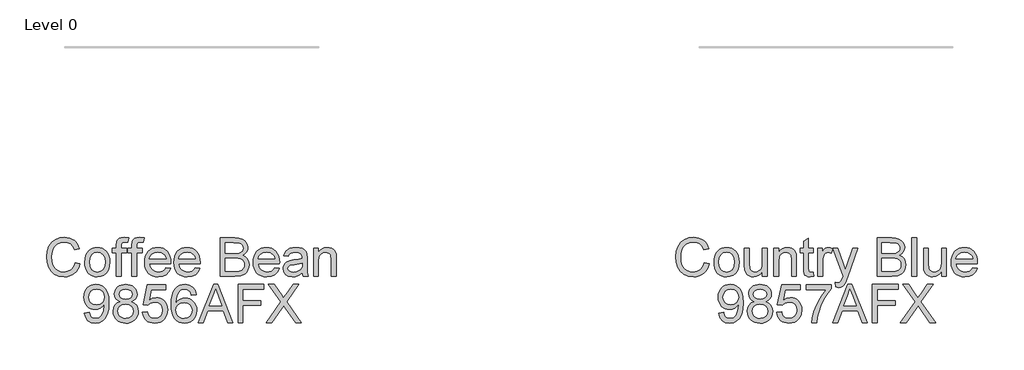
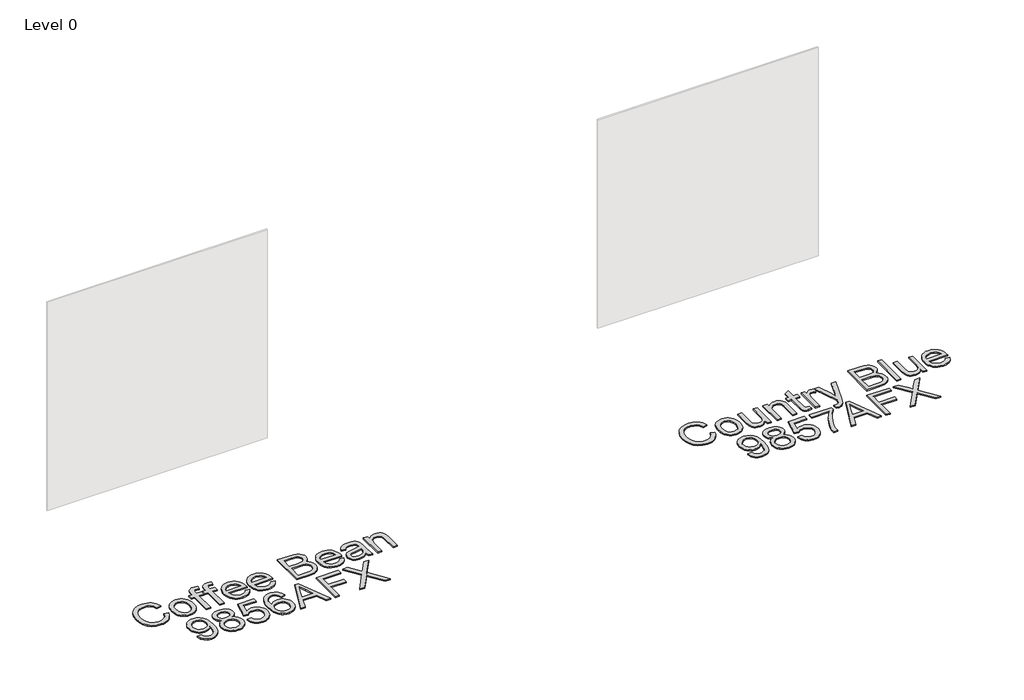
# One storey, part 2 of 10: 2 proxies.
"""IFC4 building model written with IfcOpenShell, lengths in millimetres."""

from ifc_helpers import new_model, si_unit, origin, origin_with_axes, place, context, project, spatial, polyline, outline, extrude, element, save

model = new_model("IFC4")

# Units and contexts
model_context = context("Model", 3, world=origin())
ifc_project = project(units=[si_unit("LENGTHUNIT", "METRE", prefix="MILLI")], contexts=[model_context])

# Site, building, storey
site = spatial("IfcSite", under=ifc_project)
building = spatial("IfcBuilding", under=site)
storey = spatial("IfcBuildingStorey", under=building, Name="Level 0", Elevation=0.0)

# Proxies
placement = place(None, origin())
element("IfcBuildingElementProxy", 1, Name="300mm Arial", ObjectType="300mm Arial", at=placement, inside=storey, context=model_context, shape_type="SweptSolid", body=[
    extrude(outline(polyline([(-10368.8915163, -11905.733257), (-10331.2204, -11915.4453417), (-10338.6746089, -11938.872527), (-10348.6028242, -11959.3428607), (-10361.005046, -11976.856343), (-10375.8812742, -11991.4129737), (-10392.8958165, -12002.856403), (-10411.7129805, -12011.0302811), (-10432.3327663, -12015.9346079), (-10454.7551739, -12017.5693835), (-10498.4503579, -12012.6213707), (-10533.1508271, -11997.7773322), (-10559.7486954, -11973.5523028), (-10579.1360765, -11940.4613173), (-10590.9726797, -11901.5577963), (-10594.9182141, -11859.8951604), (-10590.4576449, -11815.9516561), (-10577.0759373, -11778.0046283), (-10555.4720672, -11747.2588905), (-10526.3450102, -11724.9192564), (-10491.8008909, -11711.3168196), (-10453.9458336, -11706.782674), (-10412.6418825, -11712.6503918), (-10394.6731463, -11719.9850391), (-10378.4932363, -11730.2535453), (-10364.368867, -11743.1845974), (-10352.5667527, -11758.5068825), (-10335.9292895, -11796.3251516), (-10373.6004058, -11805.3014723), (-10386.6602166, -11777.8298843), (-10404.5024934, -11758.9851291), (-10427.3479653, -11748.086625), (-10455.4173615, -11744.4537903), (-10487.772583, -11748.4820981), (-10514.3520572, -11760.5670217), (-10534.5211875, -11779.439368), (-10547.6453777, -11803.8299443), (-10554.8466678, -11831.4026999), (-10557.2470978, -11859.821584), (-10554.4052094, -11894.6232207), (-10545.8795441, -11924.7159679), (-10531.3482053, -11948.9501944), (-10510.4892962, -11966.1762688), (-10485.4825176, -11976.4677676), (-10458.5075703, -11979.8982672), (-10427.0628568, -11975.2261659), (-10400.8604616, -11961.2098619), (-10381.0776074, -11937.996508), (-10368.8915163, -11905.733257)])), origin_with_axes(), (0.0, 0.0, 1.0), 10.0),
    extrude(outline(polyline([(-10293.5492837, -11902.2015898), (-10291.5121371, -11873.5389839), (-10285.4006975, -11848.8403064), (-10275.2149647, -11828.1055575), (-10260.9549389, -11811.334737), (-10246.598344, -11800.6155754), (-10230.7518271, -11792.9590314), (-10213.4153881, -11788.3651049), (-10194.589027, -11786.8337961), (-10173.8059935, -11788.698498), (-10155.0141213, -11794.2926036), (-10138.2134105, -11803.6161129), (-10123.4038609, -11816.669026), (-10111.3166381, -11833.0098843), (-10102.6829075, -11852.1972296), (-10097.5026692, -11874.2310619), (-10095.775923, -11899.1113811), (-10098.8293436, -11937.1687735), (-10107.9896053, -11966.1394806), (-10122.9899936, -11987.8353213), (-10143.5637942, -12004.0681143), (-10168.0003558, -12014.1940662), (-10194.589027, -12017.5693835), (-10215.6755631, -12015.7115794), (-10234.6421792, -12010.1381672), (-10251.4888753, -12000.8491468), (-10266.2156514, -11987.8445183), (-10278.1741155, -11971.3450108), (-10286.7158756, -11951.5713536), (-10291.8409316, -11928.5235466), (-10293.5492837, -11902.2015898)]), holes=[polyline([(-10255.8781674, -11902.1280134), (-10251.5187657, -11936.2214773), (-10238.4405608, -11960.5108861), (-10218.758874, -11975.0514219), (-10194.589027, -11979.8982672), (-10170.5295445, -11975.0238308), (-10150.8846459, -11960.4005215), (-10137.806441, -11935.789216), (-10133.4470394, -11900.950791), (-10137.8340321, -11867.8506085), (-10150.9950105, -11843.8922936), (-10170.6675002, -11829.3517577), (-10194.589027, -11824.5049125), (-10218.758874, -11829.3333636), (-10238.4405608, -11843.8187172), (-10251.5187657, -11868.0529436), (-10255.8781674, -11902.1280134)])]), origin_with_axes(), (0.0, 0.0, 1.0), 10.0),
    extrude(outline(polyline([(-9921.5470101, -12012.860494), (-9921.5470101, -11829.213802), (-9954.5092369, -11829.213802), (-9954.5092369, -11791.5426857), (-9921.5470101, -11791.5426857), (-9921.5470101, -11769.2490368), (-9917.5738846, -11737.8319144), (-9909.9955155, -11725.3055325), (-9898.296868, -11715.3911127), (-9881.9261193, -11708.9347837), (-9860.3314461, -11706.782674), (-9825.9712678, -11710.9029523), (-9831.4894977, -11746.2196239), (-9853.1945354, -11744.4537903), (-9867.5143421, -11746.0172888), (-9876.9229241, -11750.7077842), (-9882.1376514, -11759.6657108), (-9883.8758938, -11774.0315027), (-9883.8758938, -11791.5426857), (-9841.495888, -11791.5426857), (-9841.495888, -11829.213802), (-9883.8758938, -11829.213802), (-9883.8758938, -12012.860494), (-9921.5470101, -12012.860494)])), origin_with_axes(), (0.0, 0.0, 1.0), 10.0),
    extrude(outline(polyline([(-10043.9781381, -12012.860494), (-10043.9781381, -11829.213802), (-10076.9403649, -11829.213802), (-10076.9403649, -11791.5426857), (-10043.9781381, -11791.5426857), (-10043.9781381, -11769.2490368), (-10040.0050126, -11737.8319144), (-10032.4266435, -11725.3055325), (-10020.727996, -11715.3911127), (-10004.3572472, -11708.9347837), (-9982.7625741, -11706.782674), (-9948.4023958, -11710.9029523), (-9953.9206257, -11746.2196239), (-9975.6256634, -11744.4537903), (-9989.9454701, -11746.0172888), (-9999.3540521, -11750.7077842), (-10004.5687794, -11759.6657108), (-10006.3070218, -11774.0315027), (-10006.3070218, -11791.5426857), (-9963.927016, -11791.5426857), (-9963.927016, -11829.213802), (-10006.3070218, -11829.213802), (-10006.3070218, -12012.860494), (-10043.9781381, -12012.860494)])), origin_with_axes(), (0.0, 0.0, 1.0), 10.0),
    extrude(outline(polyline([(-9653.5817648, -11946.9360404), (-9616.6464125, -11951.64493), (-9629.9545437, -11979.4752029), (-9651.1905319, -12000.2789297), (-9679.8761305, -12013.2467701), (-9715.5330928, -12017.5693835), (-9738.9073951, -12015.7046817), (-9759.7341146, -12010.1105761), (-9778.0132512, -12000.7870668), (-9793.744805, -11987.7341537), (-9806.3953471, -11971.3151204), (-9815.4314486, -11951.8932503), (-9820.8531095, -11929.4685435), (-9822.6603298, -11904.0409998), (-9820.8347154, -11877.7512327), (-9815.3578722, -11854.5792656), (-9806.2298002, -11834.5250983), (-9793.4504994, -11817.5887309), (-9777.7603323, -11804.133447), (-9759.8996615, -11794.5225298), (-9739.8684868, -11788.7559796), (-9717.6668084, -11786.8337961), (-9696.1802006, -11788.751381), (-9676.7491335, -11794.5041357), (-9659.373607, -11804.0920602), (-9644.0536212, -11817.5151545), (-9631.5479326, -11834.4147337), (-9622.6152979, -11854.4321128), (-9617.2557171, -11877.5672917), (-9615.4691901, -11903.8202706), (-9615.6899193, -11913.9738137), (-9784.9892135, -11913.9738137), (-9778.4685052, -11942.1719686), (-9763.320964, -11962.902119), (-9741.4595764, -11975.6492302), (-9714.7973288, -11979.8982672), (-9694.7477601, -11977.9300985), (-9677.8619765, -11972.0255925), (-9664.1399781, -11961.8168672), (-9653.5817648, -11946.9360404)]), holes=[polyline([(-9784.9892135, -11876.3026974), (-9653.1403065, -11876.3026974), (-9658.2354721, -11856.4002814), (-9668.2234683, -11842.1632482), (-9690.1860234, -11828.9194964), (-9717.8139612, -11824.5049125), (-9743.2070159, -11828.0273826), (-9764.2038808, -11838.5947929), (-9778.799599, -11855.0667092), (-9784.9892135, -11876.3026974)])]), origin_with_axes(), (0.0, 0.0, 1.0), 10.0),
    extrude(outline(polyline([(-9422.8461775, -11946.9360404), (-9385.9108252, -11951.64493), (-9399.2189563, -11979.4752029), (-9420.4549445, -12000.2789297), (-9449.1405431, -12013.2467701), (-9484.7975055, -12017.5693835), (-9508.1718077, -12015.7046817), (-9528.9985272, -12010.1105761), (-9547.2776638, -12000.7870668), (-9563.0092176, -11987.7341537), (-9575.6597597, -11971.3151204), (-9584.6958613, -11951.8932503), (-9590.1175222, -11929.4685435), (-9591.9247425, -11904.0409998), (-9590.0991281, -11877.7512327), (-9584.6222849, -11854.5792656), (-9575.4942128, -11834.5250983), (-9562.714912, -11817.5887309), (-9547.0247449, -11804.133447), (-9529.1640741, -11794.5225298), (-9509.1328994, -11788.7559796), (-9486.931221, -11786.8337961), (-9465.4446133, -11788.751381), (-9446.0135461, -11794.5041357), (-9428.6380196, -11804.0920602), (-9413.3180338, -11817.5151545), (-9400.8123452, -11834.4147337), (-9391.8797105, -11854.4321128), (-9386.5201297, -11877.5672917), (-9384.7336028, -11903.8202706), (-9384.954332, -11913.9738137), (-9554.2536261, -11913.9738137), (-9547.7329178, -11942.1719686), (-9532.5853766, -11962.902119), (-9510.7239891, -11975.6492302), (-9484.0617415, -11979.8982672), (-9464.0121727, -11977.9300985), (-9447.1263892, -11972.0255925), (-9433.4043907, -11961.8168672), (-9422.8461775, -11946.9360404)]), holes=[polyline([(-9554.2536261, -11876.3026974), (-9422.4047191, -11876.3026974), (-9427.4998847, -11856.4002814), (-9437.4878809, -11842.1632482), (-9459.450436, -11828.9194964), (-9487.0783738, -11824.5049125), (-9512.4714285, -11828.0273826), (-9533.4682934, -11838.5947929), (-9548.0640116, -11855.0667092), (-9554.2536261, -11876.3026974)])]), origin_with_axes(), (0.0, 0.0, 1.0), 10.0),
    extrude(outline(polyline([(-9224.6313585, -12012.860494), (-9224.6313585, -11711.4915635), (-9109.6314468, -11711.4915635), (-9078.0027922, -11713.7080526), (-9053.3087133, -11720.3575196), (-9034.3811847, -11731.6055116), (-9020.052181, -11747.6175755), (-9011.029875, -11766.4531336), (-9008.0224397, -11786.1716086), (-9010.5516284, -11804.317388), (-9018.1391946, -11821.3779155), (-9030.8403205, -11836.3047274), (-9048.7101884, -11848.0493601), (-9027.3638356, -11859.1961846), (-9011.5908951, -11876.1555446), (-9001.8512192, -11897.8054), (-8998.6046606, -11923.0237108), (-9000.8211497, -11944.0389697), (-9007.4706167, -11963.5275184), (-9017.3942335, -11980.1006023), (-9029.4331718, -11992.3694669), (-9044.1760428, -12001.253817), (-9062.2114576, -12007.6733578), (-9110.5143636, -12012.860494), (-9224.6313585, -12012.860494)]), holes=[polyline([(-9186.9602422, -11833.9226915), (-9118.1663091, -11833.9226915), (-9077.9935952, -11830.68533), (-9063.9313059, -11825.1027207), (-9053.8237481, -11816.7426024), (-9047.726104, -11805.7337336), (-9045.693556, -11792.2048733), (-9047.5881483, -11779.071486), (-9053.2719251, -11767.630356), (-9062.4873691, -11758.7000206), (-9074.9769628, -11753.0990172), (-9123.3902334, -11749.1626798), (-9186.9602422, -11749.1626798), (-9186.9602422, -11833.9226915)]), polyline([(-9186.9602422, -11975.1893777), (-9109.7050232, -11975.1893777), (-9081.7459915, -11973.7178497), (-9058.0911793, -11965.5140812), (-9042.4194063, -11948.7754504), (-9037.8116843, -11936.9480443), (-9036.2757769, -11923.3915928), (-9038.0783987, -11907.6462434), (-9043.486264, -11894.1081859), (-9052.9316343, -11883.5223815), (-9066.8467707, -11876.6337912), (-9086.5560486, -11872.8538037), (-9113.3838431, -11871.5938078), (-9186.9602422, -11871.5938078), (-9186.9602422, -11975.1893777)])]), origin_with_axes(), (0.0, 0.0, 1.0), 10.0),
    extrude(outline(polyline([(-8796.5638689, -11946.9360404), (-8759.6285166, -11951.64493), (-8772.9366477, -11979.4752029), (-8794.1726359, -12000.2789297), (-8822.8582345, -12013.2467701), (-8858.5151969, -12017.5693835), (-8881.8894991, -12015.7046817), (-8902.7162186, -12010.1105761), (-8920.9953552, -12000.7870668), (-8936.726909, -11987.7341537), (-8949.3774512, -11971.3151204), (-8958.4135527, -11951.8932503), (-8963.8352136, -11929.4685435), (-8965.6424339, -11904.0409998), (-8963.8168195, -11877.7512327), (-8958.3399763, -11854.5792656), (-8949.2119043, -11834.5250983), (-8936.4326034, -11817.5887309), (-8920.7424364, -11804.133447), (-8902.8817655, -11794.5225298), (-8882.8505909, -11788.7559796), (-8860.6489124, -11786.8337961), (-8839.1623047, -11788.751381), (-8819.7312375, -11794.5041357), (-8802.355711, -11804.0920602), (-8787.0357252, -11817.5151545), (-8774.5300366, -11834.4147337), (-8765.5974019, -11854.4321128), (-8760.2378211, -11877.5672917), (-8758.4512942, -11903.8202706), (-8758.6720234, -11913.9738137), (-8927.9713176, -11913.9738137), (-8921.4506092, -11942.1719686), (-8906.303068, -11962.902119), (-8884.4416805, -11975.6492302), (-8857.7794329, -11979.8982672), (-8837.7298641, -11977.9300985), (-8820.8440806, -11972.0255925), (-8807.1220821, -11961.8168672), (-8796.5638689, -11946.9360404)]), holes=[polyline([(-8927.9713176, -11876.3026974), (-8796.1224105, -11876.3026974), (-8801.2175761, -11856.4002814), (-8811.2055723, -11842.1632482), (-8833.1681274, -11828.9194964), (-8860.7960652, -11824.5049125), (-8886.18912, -11828.0273826), (-8907.1859848, -11838.5947929), (-8921.781703, -11855.0667092), (-8927.9713176, -11876.3026974)])]), origin_with_axes(), (0.0, 0.0, 1.0), 10.0),
    extrude(outline(polyline([(-8579.5134917, -11984.6071568), (-8597.5121183, -12000.0398064), (-8616.0441738, -12010.1381672), (-8635.5327225, -12015.7115794), (-8656.4008287, -12017.5693835), (-8687.8823305, -12013.0996173), (-8711.1048814, -11999.6903186), (-8725.4246881, -11979.3280501), (-8730.197957, -11953.9993748), (-8728.3953352, -11938.3827841), (-8722.9874698, -11924.2009331), (-8714.6457456, -11912.0608273), (-8704.0415471, -11902.5694718), (-8677.664408, -11890.2086368), (-8645.0700633, -11884.5432541), (-8606.5528184, -11878.5835657), (-8579.7342209, -11871.5938078), (-8579.5134917, -11863.2060983), (-8582.1070598, -11846.3938912), (-8589.887764, -11835.3942195), (-8607.2885824, -11827.2272392), (-8631.5320058, -11824.5049125), (-8653.9728076, -11826.3167313), (-8669.6445805, -11831.7521878), (-8680.3315525, -11841.8045633), (-8687.8179511, -11857.4671392), (-8725.4890674, -11852.7582497), (-8718.949965, -11832.156858), (-8709.191895, -11815.9700502), (-8695.3043497, -11803.590821), (-8676.3768211, -11794.4121652), (-8653.2278465, -11788.7283884), (-8626.6759635, -11786.8337961), (-8601.2093324, -11788.5076592), (-8581.0218079, -11793.5292485), (-8565.8006904, -11801.0800264), (-8555.23328, -11810.3414556), (-8548.225128, -11821.7917827), (-8543.6817854, -11835.9092543), (-8541.8423754, -11868.8714811), (-8541.8423754, -11915.7396473), (-8539.929389, -11981.1858542), (-8532.4245963, -12012.860494), (-8570.0957127, -12012.860494), (-8579.5134917, -11984.6071568)]), holes=[polyline([(-8579.5134917, -11909.2649241), (-8640.2875973, -11920.8164188), (-8672.6980011, -11926.9232599), (-8687.3764927, -11936.8560738), (-8692.5268406, -11951.3506244), (-8689.7217404, -11962.5526311), (-8681.3064398, -11971.7312869), (-8667.4648797, -11977.8565221), (-8648.3810012, -11979.8982672), (-8628.1474915, -11977.64499), (-8610.2684265, -11970.8851583), (-8595.7738759, -11960.9247533), (-8585.6939092, -11949.069756), (-8581.224143, -11936.8560738), (-8579.7342209, -11919.933502), (-8579.5134917, -11909.2649241)])]), origin_with_axes(), (0.0, 0.0, 1.0), 10.0),
    extrude(outline(polyline([(-8490.0445905, -12012.860494), (-8490.0445905, -11791.5426857), (-8452.3734742, -11791.5426857), (-8452.3734742, -11822.4447733), (-8439.2860722, -11806.8649708), (-8423.568314, -11795.7365404), (-8405.2201995, -11789.0594822), (-8384.2417287, -11786.8337961), (-8365.672885, -11788.6272209), (-8348.6675398, -11794.0074951), (-8334.4856888, -11802.303234), (-8324.3873281, -11812.8430532), (-8313.0933508, -11840.5445674), (-8311.106788, -11876.964885), (-8311.106788, -12012.860494), (-8348.7779044, -12012.860494), (-8348.7779044, -11882.0416565), (-8353.1189119, -11848.7115477), (-8359.1245855, -11838.7879309), (-8368.4595911, -11831.0900002), (-8380.424953, -11826.1511844), (-8394.3216954, -11824.5049125), (-8416.385418, -11828.2021265), (-8435.193385, -11839.2937687), (-8442.709674, -11848.3482643), (-8448.0784519, -11860.7228949), (-8452.3734742, -11895.4325611), (-8452.3734742, -12012.860494), (-8490.0445905, -12012.860494)])), origin_with_axes(), (0.0, 0.0, 1.0), 10.0),
    extrude(outline(polyline([(-10295.9037284, -12303.4427149), (-10258.2326121, -12298.7338254), (-10251.7946772, -12320.1169663), (-10241.3100403, -12334.6758963), (-10227.0362189, -12343.0360146), (-10209.2307304, -12345.8227207), (-10193.2554547, -12344.029296), (-10178.733313, -12338.6490218), (-10166.6667835, -12330.2705094), (-10158.0583448, -12319.4823699), (-10145.734298, -12286.7408723), (-10140.2896445, -12243.0364913), (-10140.5103737, -12235.6788514), (-10153.5609874, -12251.6081418), (-10170.6399091, -12264.2264942), (-10190.5147339, -12272.4486568), (-10211.9530571, -12275.1893777), (-10229.8482169, -12273.5155146), (-10246.3040384, -12268.4939254), (-10261.3205216, -12260.12461), (-10274.8976665, -12248.4075684), (-10286.1479578, -12233.9544045), (-10294.1838801, -12217.3767221), (-10299.0054335, -12198.6745212), (-10300.612618, -12177.8478018), (-10298.9272586, -12156.326705), (-10293.8711804, -12137.0129003), (-10285.4443835, -12119.9063875), (-10273.6468677, -12105.0071667), (-10259.3109662, -12092.9360387), (-10243.269012, -12084.3138045), (-10225.521005, -12079.1404639), (-10206.0669452, -12077.4160171), (-10177.9699578, -12081.3523544), (-10152.3929621, -12093.1613665), (-10131.0006241, -12112.254442), (-10115.4576098, -12138.0429699), (-10105.9938455, -12173.6907352), (-10102.8392574, -12222.3615232), (-10105.9846484, -12273.96617), (-10115.4208216, -12313.8537754), (-10131.0650034, -12343.8269609), (-10152.8344205, -12365.6883485), (-10179.7909737, -12379.0424649), (-10210.9965639, -12383.4938371), (-10243.2046326, -12378.2423216), (-10268.90119, -12362.4877751), (-10286.8722254, -12337.2234791), (-10295.9037284, -12303.4427149)]), holes=[polyline([(-10140.5103737, -12176.964885), (-10144.5754697, -12151.4338745), (-10156.7707578, -12131.788976), (-10175.6982865, -12119.262594), (-10199.9601041, -12115.0871334), (-10225.1232326, -12119.5844908), (-10245.2831659, -12133.0765629), (-10258.5269177, -12153.7239399), (-10262.9415017, -12179.6872117), (-10258.766041, -12202.964945), (-10246.2396591, -12221.4418182), (-10226.5763664, -12233.4991506), (-10200.9901737, -12237.5182614), (-10176.9214941, -12233.4991506), (-10157.54331, -12221.4418182), (-10144.7686078, -12202.2843633), (-10140.5103737, -12176.964885)])]), origin_with_axes(), (0.0, 0.0, 1.0), 10.0),
    extrude(outline(polyline([(-10014.9890369, -12212.7965913), (-10035.1581673, -12202.8637774), (-10049.3124271, -12189.3992964), (-10057.6725454, -12172.6790597), (-10060.4592515, -12152.9789789), (-10058.9417383, -12137.6153071), (-10054.3891986, -12123.5300252), (-10046.8016324, -12110.7231332), (-10036.1790398, -12099.1946312), (-10023.031857, -12089.6664875), (-10007.8705203, -12082.8606706), (-9971.5053851, -12077.4160171), (-9934.9195207, -12082.9894293), (-9919.592637, -12089.9561946), (-9906.2431191, -12099.709666), (-9895.4273885, -12111.4634957), (-9887.7018666, -12124.4313361), (-9883.0665534, -12138.613187), (-9881.5214491, -12154.0090485), (-9884.271367, -12173.0745329), (-9892.5211207, -12189.509661), (-9906.3626808, -12202.8913686), (-9925.8880177, -12212.7965913), (-9902.7022549, -12224.7435591), (-9885.8256684, -12242.3375155), (-9875.5341696, -12264.732332), (-9872.10367, -12291.0818799), (-9873.8051242, -12309.8714528), (-9878.9094869, -12327.0975272), (-9887.416758, -12342.7601031), (-9899.3269376, -12356.8591806), (-9914.0146263, -12368.5118428), (-9930.8544246, -12376.8351729), (-9949.8463326, -12381.829171), (-9970.9903503, -12383.4938371), (-9992.134368, -12381.8222732), (-10011.126276, -12376.8075818), (-10027.9660743, -12368.4497627), (-10042.6537629, -12356.748816), (-10054.5639425, -12342.5508703), (-10063.0712137, -12326.702054), (-10068.1755764, -12309.2023674), (-10069.8770306, -12290.0518103), (-10066.3085752, -12262.6813898), (-10055.6032092, -12240.1670117), (-10038.3127554, -12223.2812282), (-10014.9890369, -12212.7965913)]), holes=[polyline([(-10022.7881352, -12154.0826249), (-10019.4496061, -12170.52695), (-10009.4340188, -12183.6603373), (-9993.0356788, -12192.268776), (-9970.5488919, -12195.1382555), (-9948.5863368, -12192.2871701), (-9932.4363172, -12183.7339137), (-9922.5035033, -12171.0419848), (-9919.1925654, -12155.774882), (-9922.6138679, -12139.9283651), (-9932.8777756, -12126.822569), (-9949.2485244, -12118.0209923), (-9970.9903503, -12115.0871334), (-9992.8701319, -12117.9566129), (-10009.2132896, -12126.5650516), (-10019.3944238, -12139.1834041), (-10022.7881352, -12154.0826249)]), polyline([(-10032.2059143, -12288.7274351), (-10025.9151322, -12317.0911369), (-10017.2055259, -12329.2588339), (-10003.6582715, -12338.317928), (-9987.4346755, -12343.9465226), (-9970.6960447, -12345.8227207), (-9945.0546696, -12341.8771864), (-9925.8144413, -12330.0405832), (-9913.7847, -12312.1155329), (-9909.7747863, -12289.9046575), (-9913.9134587, -12267.316703), (-9926.3294761, -12248.9961796), (-9946.0111628, -12236.8560738), (-9971.9468435, -12232.8093718), (-9997.2295336, -12236.8008915), (-10016.2766239, -12248.7754504), (-10028.2235917, -12266.7464859), (-10032.2059143, -12288.7274351)])]), origin_with_axes(), (0.0, 0.0, 1.0), 10.0),
    extrude(outline(polyline([(-9839.1414432, -12298.7338254), (-9801.4703269, -12294.0249358), (-9794.5541454, -12316.6404815), (-9782.487616, -12332.8364863), (-9765.3259209, -12342.5761621), (-9743.1242425, -12345.8227207), (-9716.121704, -12341.3069693), (-9695.8881943, -12327.7597148), (-9683.2514478, -12306.7444558), (-9679.0391989, -12279.8246908), (-9682.9847333, -12254.4776213), (-9694.8213365, -12235.0902402), (-9714.640979, -12222.7845875), (-9742.5356313, -12218.6827032), (-9760.8101694, -12220.3197781), (-9775.6082226, -12225.2310027), (-9796.7614374, -12242.2271509), (-9834.4325537, -12237.5182614), (-9801.4703269, -12082.1249066), (-9655.4947512, -12082.1249066), (-9655.4947512, -12119.7960229), (-9771.0096977, -12119.7960229), (-9787.1229291, -12202.790201), (-9760.2123611, -12186.4562404), (-9732.0142062, -12181.0115869), (-9713.668391, -12182.6992456), (-9696.8170963, -12187.7622215), (-9681.4603223, -12196.2005148), (-9667.5980689, -12208.0141254), (-9656.1224499, -12222.4810848), (-9647.9255792, -12238.8794248), (-9643.0074567, -12257.2091452), (-9641.3680826, -12277.470246), (-9647.2725886, -12315.1413624), (-9654.6532212, -12331.9351754), (-9664.9861067, -12347.3678251), (-9680.6394856, -12363.1729553), (-9698.9048267, -12374.4623341), (-9719.7821299, -12381.2359613), (-9743.2713953, -12383.4938371), (-9780.2711269, -12377.6904986), (-9795.9497977, -12370.4363255), (-9809.7476718, -12360.2804832), (-9821.2278893, -12347.7288093), (-9829.9535904, -12333.2871418), (-9839.1414432, -12298.7338254)])), origin_with_axes(), (0.0, 0.0, 1.0), 10.0),
    extrude(outline(polyline([(-9415.3413848, -12157.4671392), (-9453.0125011, -12162.1760288), (-9459.082554, -12143.5060175), (-9467.2863225, -12130.7589064), (-9484.3744412, -12119.0050766), (-9505.0310152, -12115.0871334), (-9522.5421982, -12117.3680017), (-9539.0233115, -12124.2106069), (-9553.1775713, -12138.622384), (-9564.738263, -12158.4604206), (-9572.5465584, -12186.5206198), (-9575.4436291, -12225.5988847), (-9560.3328761, -12207.9681401), (-9542.2238849, -12195.5429257), (-9522.1283309, -12188.1760888), (-9501.0578896, -12185.7204764), (-9482.9580955, -12187.3989381), (-9466.2562529, -12192.4343229), (-9450.9523619, -12200.8266309), (-9437.0464225, -12212.5758621), (-9425.4903293, -12226.9830407), (-9417.235977, -12243.349191), (-9412.2833657, -12261.6743129), (-9410.6324952, -12281.9584064), (-9413.7410981, -12308.9333537), (-9423.0669067, -12333.9401323), (-9437.8373688, -12355.1485293), (-9457.2799322, -12370.7283318), (-9480.5116802, -12380.3024607), (-9506.649696, -12383.4938371), (-9529.1065925, -12381.3785156), (-9549.3883868, -12375.0325512), (-9567.4950787, -12364.4559438), (-9583.4266684, -12349.6486935), (-9596.4152021, -12329.9854009), (-9605.6927261, -12304.8406665), (-9611.2592406, -12274.2144904), (-9613.1147454, -12238.1068726), (-9611.0546062, -12197.6260575), (-9604.8741887, -12163.0773396), (-9594.5734928, -12134.4607189), (-9580.1525186, -12111.7761954), (-9564.5221323, -12096.7436174), (-9546.3993456, -12086.0060617), (-9525.7841582, -12079.5635282), (-9502.6765704, -12077.4160171), (-9469.6223732, -12082.7319119), (-9443.1532636, -12098.6795964), (-9424.612011, -12124.0082718), (-9415.3413848, -12157.4671392)]), holes=[polyline([(-9575.4436291, -12281.3697952), (-9573.2639283, -12298.0624407), (-9566.7248258, -12314.0009282), (-9556.5712827, -12327.7045325), (-9543.5482601, -12337.6925287), (-9527.8305018, -12343.7901727), (-9509.5927519, -12345.8227207), (-9484.7331261, -12341.6104719), (-9465.1893951, -12328.9737254), (-9452.5250574, -12309.1080976), (-9448.3036115, -12283.2092052), (-9452.4698751, -12258.3495793), (-9464.9686659, -12239.3944595), (-9484.8434907, -12227.3923095), (-9511.1378563, -12223.3915928), (-9535.9606939, -12227.3923095), (-9556.7184355, -12239.3944595), (-9570.7623307, -12257.8897269), (-9575.4436291, -12281.3697952)])]), origin_with_axes(), (0.0, 0.0, 1.0), 10.0),
    extrude(outline(polyline([(-9398.6395422, -12378.7849475), (-9278.3421298, -12077.4160171), (-9246.2628198, -12077.4160171), (-9125.9654074, -12378.7849475), (-9165.7702392, -12378.7849475), (-9200.2775704, -12284.6071568), (-9324.4009556, -12284.6071568), (-9358.8347103, -12378.7849475), (-9398.6395422, -12378.7849475)]), holes=[polyline([(-9310.5685925, -12246.9360404), (-9214.036357, -12246.9360404), (-9241.1860483, -12172.8446066), (-9262.3024748, -12115.0871334), (-9281.0644565, -12166.3698835), (-9310.5685925, -12246.9360404)])]), origin_with_axes(), (0.0, 0.0, 1.0), 10.0),
    extrude(outline(polyline([(-9085.7191171, -12378.7849475), (-9085.7191171, -12077.4160171), (-8883.2368669, -12077.4160171), (-8883.2368669, -12115.0871334), (-9048.0480008, -12115.0871334), (-9048.0480008, -12204.5560346), (-8906.7813146, -12204.5560346), (-8906.7813146, -12242.2271509), (-9048.0480008, -12242.2271509), (-9048.0480008, -12378.7849475), (-9085.7191171, -12378.7849475)])), origin_with_axes(), (0.0, 0.0, 1.0), 10.0),
    extrude(outline(polyline([(-8864.4013088, -12378.7849475), (-8748.2241747, -12214.5624249), (-8845.5657506, -12077.4160171), (-8800.3898416, -12077.4160171), (-8745.5754244, -12154.5976597), (-8727.1077482, -12184.6904069), (-8705.4762869, -12154.0826249), (-8651.2504808, -12077.4160171), (-8605.4123842, -12077.4160171), (-8702.7539601, -12215.0038833), (-8586.576826, -12378.7849475), (-8631.752735, -12378.7849475), (-8709.1551068, -12269.5975713), (-8725.2683382, -12246.9360404), (-8743.0002504, -12271.8048633), (-8818.5632122, -12378.7849475), (-8864.4013088, -12378.7849475)])), origin_with_axes(), (0.0, 0.0, 1.0), 10.0),
])
element("IfcBuildingElementProxy", 2, Name="300mm Arial", ObjectType="300mm Arial", at=placement, inside=storey, context=model_context, shape_type="SweptSolid", body=[
    extrude(outline(polyline([(-5408.9170773, -11905.733257), (-5371.245961, -11915.4453417), (-5378.70017, -11938.872527), (-5388.6283853, -11959.3428607), (-5401.0306071, -11976.856343), (-5415.9068353, -11991.4129737), (-5432.9213775, -12002.856403), (-5451.7385416, -12011.0302811), (-5472.3583274, -12015.9346079), (-5494.780735, -12017.5693835), (-5538.475919, -12012.6213707), (-5573.1763882, -11997.7773322), (-5599.7742564, -11973.5523028), (-5619.1616376, -11940.4613173), (-5630.9982408, -11901.5577963), (-5634.9437752, -11859.8951604), (-5630.483206, -11815.9516561), (-5617.1014984, -11778.0046283), (-5595.4976282, -11747.2588905), (-5566.3705713, -11724.9192564), (-5531.8264519, -11711.3168196), (-5493.9713946, -11706.782674), (-5452.6674436, -11712.6503918), (-5434.6987074, -11719.9850391), (-5418.5187974, -11730.2535453), (-5404.3944281, -11743.1845974), (-5392.5923138, -11758.5068825), (-5375.9548506, -11796.3251516), (-5413.6259669, -11805.3014723), (-5426.6857777, -11777.8298843), (-5444.5280545, -11758.9851291), (-5467.3735264, -11748.086625), (-5495.4429226, -11744.4537903), (-5527.7981441, -11748.4820981), (-5554.3776182, -11760.5670217), (-5574.5467486, -11779.439368), (-5587.6709388, -11803.8299443), (-5594.8722289, -11831.4026999), (-5597.2726589, -11859.821584), (-5594.4307705, -11894.6232207), (-5585.9051052, -11924.7159679), (-5571.3737664, -11948.9501944), (-5550.5148573, -11966.1762688), (-5525.5080787, -11976.4677676), (-5498.5331314, -11979.8982672), (-5467.0884178, -11975.2261659), (-5440.8860227, -11961.2098619), (-5421.1031684, -11937.996508), (-5408.9170773, -11905.733257)])), origin_with_axes(), (0.0, 0.0, 1.0), 10.0),
    extrude(outline(polyline([(-5333.5748447, -11902.2015898), (-5331.5376982, -11873.5389839), (-5325.4262585, -11848.8403064), (-5315.2405258, -11828.1055575), (-5300.9805, -11811.334737), (-5286.6239051, -11800.6155754), (-5270.7773882, -11792.9590314), (-5253.4409491, -11788.3651049), (-5234.614588, -11786.8337961), (-5213.8315546, -11788.698498), (-5195.0396824, -11794.2926036), (-5178.2389715, -11803.6161129), (-5163.429422, -11816.669026), (-5151.3421992, -11833.0098843), (-5142.7084686, -11852.1972296), (-5137.5282302, -11874.2310619), (-5135.8014841, -11899.1113811), (-5138.8549047, -11937.1687735), (-5148.0151664, -11966.1394806), (-5163.0155547, -11987.8353213), (-5183.5893553, -12004.0681143), (-5208.0259168, -12014.1940662), (-5234.614588, -12017.5693835), (-5255.7011241, -12015.7115794), (-5274.6677403, -12010.1381672), (-5291.5144364, -12000.8491468), (-5306.2412125, -11987.8445183), (-5318.1996766, -11971.3450108), (-5326.7414367, -11951.5713536), (-5331.8664927, -11928.5235466), (-5333.5748447, -11902.2015898)]), holes=[polyline([(-5295.9037284, -11902.1280134), (-5291.5443268, -11936.2214773), (-5278.4661219, -11960.5108861), (-5258.7844351, -11975.0514219), (-5234.614588, -11979.8982672), (-5210.5551055, -11975.0238308), (-5190.910207, -11960.4005215), (-5177.8320021, -11935.789216), (-5173.4726004, -11900.950791), (-5177.8595932, -11867.8506085), (-5191.0205716, -11843.8922936), (-5210.6930613, -11829.3517577), (-5234.614588, -11824.5049125), (-5258.7844351, -11829.3333636), (-5278.4661219, -11843.8187172), (-5291.5443268, -11868.0529436), (-5295.9037284, -11902.1280134)])]), origin_with_axes(), (0.0, 0.0, 1.0), 10.0),
    extrude(outline(polyline([(-4952.1547921, -12012.860494), (-4952.1547921, -11974.8214957), (-4965.7848201, -11993.5236966), (-4981.6589281, -12006.8824116), (-4999.7771164, -12014.8976405), (-5020.1393848, -12017.5693835), (-5038.4874994, -12015.6931853), (-5055.566421, -12010.0645908), (-5069.8954247, -12001.6033049), (-5079.9937855, -11991.2290327), (-5091.2141863, -11963.4907302), (-5093.4214783, -11928.4683643), (-5093.4214783, -11791.5426857), (-5055.750362, -11791.5426857), (-5055.750362, -11910.7364521), (-5053.4694936, -11949.1433324), (-5047.9788548, -11961.9548229), (-5038.5702728, -11971.6944987), (-5025.8691469, -11977.8473251), (-5010.5008766, -11979.8982672), (-4994.2496894, -11977.8013398), (-4979.046966, -11971.5105577), (-4966.511387, -11961.605335), (-4958.2616333, -11948.6650858), (-4953.6815024, -11930.9423707), (-4952.1547921, -11906.6897502), (-4952.1547921, -11791.5426857), (-4914.4836758, -11791.5426857), (-4914.4836758, -12012.860494), (-4952.1547921, -12012.860494)])), origin_with_axes(), (0.0, 0.0, 1.0), 10.0),
    extrude(outline(polyline([(-4862.6858909, -12012.860494), (-4862.6858909, -11791.5426857), (-4825.0147746, -11791.5426857), (-4825.0147746, -11822.4447733), (-4811.9273726, -11806.8649708), (-4796.2096144, -11795.7365404), (-4777.8614999, -11789.0594822), (-4756.8830291, -11786.8337961), (-4738.3141854, -11788.6272209), (-4721.3088402, -11794.0074951), (-4707.1269892, -11802.303234), (-4697.0286285, -11812.8430532), (-4685.7346512, -11840.5445674), (-4683.7480885, -11876.964885), (-4683.7480885, -12012.860494), (-4721.4192048, -12012.860494), (-4721.4192048, -11882.0416565), (-4725.7602123, -11848.7115477), (-4731.7658859, -11838.7879309), (-4741.1008915, -11831.0900002), (-4753.0662534, -11826.1511844), (-4766.9629958, -11824.5049125), (-4789.0267184, -11828.2021265), (-4807.8346854, -11839.2937687), (-4815.3509744, -11848.3482643), (-4820.7197523, -11860.7228949), (-4825.0147746, -11895.4325611), (-4825.0147746, -12012.860494), (-4862.6858909, -12012.860494)])), origin_with_axes(), (0.0, 0.0, 1.0), 10.0),
    extrude(outline(polyline([(-4551.8991814, -11981.4433716), (-4547.1902918, -12013.96414), (-4575.3700527, -12017.5693835), (-4593.4514527, -12016.005885), (-4606.9343279, -12011.3153896), (-4616.4624715, -12004.0865084), (-4622.6796773, -11994.9078526), (-4626.1009798, -11979.1441091), (-4627.241414, -11952.1599648), (-4627.241414, -11829.213802), (-4655.4947512, -11829.213802), (-4655.4947512, -11791.5426857), (-4627.241414, -11791.5426857), (-4627.241414, -11737.758338), (-4589.5702977, -11715.6118419), (-4589.5702977, -11791.5426857), (-4551.8991814, -11791.5426857), (-4551.8991814, -11829.213802), (-4589.5702977, -11829.213802), (-4589.5702977, -11951.0563188), (-4587.5837349, -11970.4804881), (-4581.1458, -11977.3598814), (-4568.3067184, -11979.8982672), (-4551.8991814, -11981.4433716)])), origin_with_axes(), (0.0, 0.0, 1.0), 10.0),
    extrude(outline(polyline([(-4514.2280651, -12012.860494), (-4514.2280651, -11791.5426857), (-4481.2658383, -11791.5426857), (-4481.2658383, -11824.2841833), (-4469.0889443, -11805.3014723), (-4457.8685434, -11794.1178596), (-4446.6113544, -11788.654812), (-4434.3240957, -11786.8337961), (-4415.562114, -11789.7400639), (-4396.5058266, -11798.4588672), (-4409.0873909, -11832.2304343), (-4422.3311427, -11826.4362929), (-4435.5748945, -11824.5049125), (-4446.8228865, -11826.3627165), (-4456.875262, -11831.9361288), (-4464.9962571, -11840.8020848), (-4470.4501076, -11852.5375205), (-4475.0302385, -11873.5803706), (-4476.5569488, -11896.5362071), (-4476.5569488, -12012.860494), (-4514.2280651, -12012.860494)])), origin_with_axes(), (0.0, 0.0, 1.0), 10.0),
    extrude(outline(polyline([(-4372.9613789, -12097.6205057), (-4377.6702685, -12061.3473409), (-4358.5404047, -12064.6582789), (-4340.6613397, -12060.5012124), (-4329.6984563, -12048.9129295), (-4319.3977604, -12021.1746271), (-4316.4547045, -12012.0511536), (-4396.5058266, -11791.5426857), (-4356.7745711, -11791.5426857), (-4314.3209889, -11914.4152721), (-4299.5321327, -11963.5643066), (-4284.7432765, -11920.1542312), (-4241.1124719, -11791.5426857), (-4201.675522, -11791.5426857), (-4278.7100118, -12018.1579947), (-4298.7227923, -12067.3070293), (-4308.9683059, -12082.9971964), (-4320.5749828, -12093.8681093), (-4334.0578579, -12100.2140737), (-4349.931966, -12102.3293952), (-4372.9613789, -12097.6205057)])), origin_with_axes(), (0.0, 0.0, 1.0), 10.0),
    extrude(outline(polyline([(-4048.0480008, -12012.860494), (-4048.0480008, -11711.4915635), (-3933.0480891, -11711.4915635), (-3901.4194346, -11713.7080526), (-3876.7253556, -11720.3575196), (-3857.797827, -11731.6055116), (-3843.4688233, -11747.6175755), (-3834.4465173, -11766.4531336), (-3831.439082, -11786.1716086), (-3833.9682707, -11804.317388), (-3841.5558369, -11821.3779155), (-3854.2569628, -11836.3047274), (-3872.1268307, -11848.0493601), (-3850.7804779, -11859.1961846), (-3835.0075374, -11876.1555446), (-3825.2678616, -11897.8054), (-3822.0213029, -11923.0237108), (-3824.237792, -11944.0389697), (-3830.887259, -11963.5275184), (-3840.8108759, -11980.1006023), (-3852.8498141, -11992.3694669), (-3867.5926851, -12001.253817), (-3885.6280999, -12007.6733578), (-3933.9310059, -12012.860494), (-4048.0480008, -12012.860494)]), holes=[polyline([(-4010.3768845, -11833.9226915), (-3941.5829514, -11833.9226915), (-3901.4102375, -11830.68533), (-3887.3479482, -11825.1027207), (-3877.2403904, -11816.7426024), (-3871.1427464, -11805.7337336), (-3869.1101983, -11792.2048733), (-3871.0047906, -11779.071486), (-3876.6885674, -11767.630356), (-3885.9040114, -11758.7000206), (-3898.3936051, -11753.0990172), (-3946.8068757, -11749.1626798), (-4010.3768845, -11749.1626798), (-4010.3768845, -11833.9226915)]), polyline([(-4010.3768845, -11975.1893777), (-3933.1216655, -11975.1893777), (-3905.1626339, -11973.7178497), (-3881.5078216, -11965.5140812), (-3865.8360486, -11948.7754504), (-3861.2283266, -11936.9480443), (-3859.6924193, -11923.3915928), (-3861.495041, -11907.6462434), (-3866.9029064, -11894.1081859), (-3876.3482766, -11883.5223815), (-3890.2634131, -11876.6337912), (-3909.9726909, -11872.8538037), (-3936.8004854, -11871.5938078), (-4010.3768845, -11871.5938078), (-4010.3768845, -11975.1893777)])]), origin_with_axes(), (0.0, 0.0, 1.0), 10.0),
    extrude(outline(polyline([(-3774.9324076, -12012.860494), (-3774.9324076, -11711.4915635), (-3737.2612913, -11711.4915635), (-3737.2612913, -12012.860494), (-3774.9324076, -12012.860494)])), origin_with_axes(), (0.0, 0.0, 1.0), 10.0),
    extrude(outline(polyline([(-3539.4879307, -12012.860494), (-3539.4879307, -11974.8214957), (-3553.1179586, -11993.5236966), (-3568.9920667, -12006.8824116), (-3587.1102549, -12014.8976405), (-3607.4725234, -12017.5693835), (-3625.8206379, -12015.6931853), (-3642.8995595, -12010.0645908), (-3657.2285632, -12001.6033049), (-3667.326924, -11991.2290327), (-3678.5473248, -11963.4907302), (-3680.7546168, -11928.4683643), (-3680.7546168, -11791.5426857), (-3643.0835005, -11791.5426857), (-3643.0835005, -11910.7364521), (-3640.8026321, -11949.1433324), (-3635.3119933, -11961.9548229), (-3625.9034113, -11971.6944987), (-3613.2022854, -11977.8473251), (-3597.8340151, -11979.8982672), (-3581.582828, -11977.8013398), (-3566.3801045, -11971.5105577), (-3553.8445255, -11961.605335), (-3545.5947718, -11948.6650858), (-3541.0146409, -11930.9423707), (-3539.4879307, -11906.6897502), (-3539.4879307, -11791.5426857), (-3501.8168143, -11791.5426857), (-3501.8168143, -12012.860494), (-3539.4879307, -12012.860494)])), origin_with_axes(), (0.0, 0.0, 1.0), 10.0),
    extrude(outline(polyline([(-3295.0671331, -11946.9360404), (-3258.1317807, -11951.64493), (-3271.4399119, -11979.4752029), (-3292.6759001, -12000.2789297), (-3321.3614987, -12013.2467701), (-3357.018461, -12017.5693835), (-3380.3927633, -12015.7046817), (-3401.2194828, -12010.1105761), (-3419.4986194, -12000.7870668), (-3435.2301732, -11987.7341537), (-3447.8807153, -11971.3151204), (-3456.9168168, -11951.8932503), (-3462.3384777, -11929.4685435), (-3464.145698, -11904.0409998), (-3462.3200836, -11877.7512327), (-3456.8432404, -11854.5792656), (-3447.7151684, -11834.5250983), (-3434.9358676, -11817.5887309), (-3419.2457005, -11804.133447), (-3401.3850297, -11794.5225298), (-3381.353855, -11788.7559796), (-3359.1521766, -11786.8337961), (-3337.6655688, -11788.751381), (-3318.2345017, -11794.5041357), (-3300.8589752, -11804.0920602), (-3285.5389894, -11817.5151545), (-3273.0333008, -11834.4147337), (-3264.1006661, -11854.4321128), (-3258.7410853, -11877.5672917), (-3256.9545584, -11903.8202706), (-3257.1752876, -11913.9738137), (-3426.4745817, -11913.9738137), (-3419.9538734, -11942.1719686), (-3404.8063322, -11962.902119), (-3382.9449447, -11975.6492302), (-3356.2826971, -11979.8982672), (-3336.2331283, -11977.9300985), (-3319.3473447, -11972.0255925), (-3305.6253463, -11961.8168672), (-3295.0671331, -11946.9360404)]), holes=[polyline([(-3426.4745817, -11876.3026974), (-3294.6256747, -11876.3026974), (-3299.7208403, -11856.4002814), (-3309.7088365, -11842.1632482), (-3331.6713916, -11828.9194964), (-3359.2993294, -11824.5049125), (-3384.6923841, -11828.0273826), (-3405.689249, -11838.5947929), (-3420.2849672, -11855.0667092), (-3426.4745817, -11876.3026974)])]), origin_with_axes(), (0.0, 0.0, 1.0), 10.0),
    extrude(outline(polyline([(-5295.9037284, -12303.4427149), (-5258.2326121, -12298.7338254), (-5251.7946772, -12320.1169663), (-5241.3100403, -12334.6758963), (-5227.0362189, -12343.0360146), (-5209.2307304, -12345.8227207), (-5193.2554547, -12344.029296), (-5178.733313, -12338.6490218), (-5166.6667835, -12330.2705094), (-5158.0583448, -12319.4823699), (-5145.734298, -12286.7408723), (-5140.2896445, -12243.0364913), (-5140.5103737, -12235.6788514), (-5153.5609874, -12251.6081418), (-5170.6399091, -12264.2264942), (-5190.5147339, -12272.4486568), (-5211.9530571, -12275.1893777), (-5229.8482169, -12273.5155146), (-5246.3040384, -12268.4939254), (-5261.3205216, -12260.12461), (-5274.8976665, -12248.4075684), (-5286.1479578, -12233.9544045), (-5294.1838801, -12217.3767221), (-5299.0054335, -12198.6745212), (-5300.612618, -12177.8478018), (-5298.9272586, -12156.326705), (-5293.8711804, -12137.0129003), (-5285.4443835, -12119.9063875), (-5273.6468677, -12105.0071667), (-5259.3109662, -12092.9360387), (-5243.269012, -12084.3138045), (-5225.521005, -12079.1404639), (-5206.0669452, -12077.4160171), (-5177.9699578, -12081.3523544), (-5152.3929621, -12093.1613665), (-5131.0006241, -12112.254442), (-5115.4576098, -12138.0429699), (-5105.9938455, -12173.6907352), (-5102.8392574, -12222.3615232), (-5105.9846484, -12273.96617), (-5115.4208216, -12313.8537754), (-5131.0650034, -12343.8269609), (-5152.8344205, -12365.6883485), (-5179.7909737, -12379.0424649), (-5210.9965639, -12383.4938371), (-5243.2046326, -12378.2423216), (-5268.90119, -12362.4877751), (-5286.8722254, -12337.2234791), (-5295.9037284, -12303.4427149)]), holes=[polyline([(-5140.5103737, -12176.964885), (-5144.5754697, -12151.4338745), (-5156.7707578, -12131.788976), (-5175.6982865, -12119.262594), (-5199.9601041, -12115.0871334), (-5225.1232326, -12119.5844908), (-5245.2831659, -12133.0765629), (-5258.5269177, -12153.7239399), (-5262.9415017, -12179.6872117), (-5258.766041, -12202.964945), (-5246.2396591, -12221.4418182), (-5226.5763664, -12233.4991506), (-5200.9901737, -12237.5182614), (-5176.9214941, -12233.4991506), (-5157.54331, -12221.4418182), (-5144.7686078, -12202.2843633), (-5140.5103737, -12176.964885)])]), origin_with_axes(), (0.0, 0.0, 1.0), 10.0),
    extrude(outline(polyline([(-5014.9890369, -12212.7965913), (-5035.1581673, -12202.8637774), (-5049.3124271, -12189.3992964), (-5057.6725454, -12172.6790597), (-5060.4592515, -12152.9789789), (-5058.9417383, -12137.6153071), (-5054.3891986, -12123.5300252), (-5046.8016324, -12110.7231332), (-5036.1790398, -12099.1946312), (-5023.031857, -12089.6664875), (-5007.8705203, -12082.8606706), (-4971.5053851, -12077.4160171), (-4934.9195207, -12082.9894293), (-4919.592637, -12089.9561946), (-4906.2431191, -12099.709666), (-4895.4273885, -12111.4634957), (-4887.7018666, -12124.4313361), (-4883.0665534, -12138.613187), (-4881.5214491, -12154.0090485), (-4884.271367, -12173.0745329), (-4892.5211207, -12189.509661), (-4906.3626808, -12202.8913686), (-4925.8880177, -12212.7965913), (-4902.7022549, -12224.7435591), (-4885.8256684, -12242.3375155), (-4875.5341696, -12264.732332), (-4872.10367, -12291.0818799), (-4873.8051242, -12309.8714528), (-4878.9094869, -12327.0975272), (-4887.416758, -12342.7601031), (-4899.3269376, -12356.8591806), (-4914.0146263, -12368.5118428), (-4930.8544246, -12376.8351729), (-4949.8463326, -12381.829171), (-4970.9903503, -12383.4938371), (-4992.134368, -12381.8222732), (-5011.126276, -12376.8075818), (-5027.9660743, -12368.4497627), (-5042.6537629, -12356.748816), (-5054.5639425, -12342.5508703), (-5063.0712137, -12326.702054), (-5068.1755764, -12309.2023674), (-5069.8770306, -12290.0518103), (-5066.3085752, -12262.6813898), (-5055.6032092, -12240.1670117), (-5038.3127554, -12223.2812282), (-5014.9890369, -12212.7965913)]), holes=[polyline([(-5022.7881352, -12154.0826249), (-5019.4496061, -12170.52695), (-5009.4340188, -12183.6603373), (-4993.0356788, -12192.268776), (-4970.5488919, -12195.1382555), (-4948.5863368, -12192.2871701), (-4932.4363172, -12183.7339137), (-4922.5035033, -12171.0419848), (-4919.1925654, -12155.774882), (-4922.6138679, -12139.9283651), (-4932.8777756, -12126.822569), (-4949.2485244, -12118.0209923), (-4970.9903503, -12115.0871334), (-4992.8701319, -12117.9566129), (-5009.2132896, -12126.5650516), (-5019.3944238, -12139.1834041), (-5022.7881352, -12154.0826249)]), polyline([(-5032.2059143, -12288.7274351), (-5025.9151322, -12317.0911369), (-5017.2055259, -12329.2588339), (-5003.6582715, -12338.317928), (-4987.4346755, -12343.9465226), (-4970.6960447, -12345.8227207), (-4945.0546696, -12341.8771864), (-4925.8144413, -12330.0405832), (-4913.7847, -12312.1155329), (-4909.7747863, -12289.9046575), (-4913.9134587, -12267.316703), (-4926.3294761, -12248.9961796), (-4946.0111628, -12236.8560738), (-4971.9468435, -12232.8093718), (-4997.2295336, -12236.8008915), (-5016.2766239, -12248.7754504), (-5028.2235917, -12266.7464859), (-5032.2059143, -12288.7274351)])]), origin_with_axes(), (0.0, 0.0, 1.0), 10.0),
    extrude(outline(polyline([(-4839.1414432, -12298.7338254), (-4801.4703269, -12294.0249358), (-4794.5541454, -12316.6404815), (-4782.487616, -12332.8364863), (-4765.3259209, -12342.5761621), (-4743.1242425, -12345.8227207), (-4716.121704, -12341.3069693), (-4695.8881943, -12327.7597148), (-4683.2514478, -12306.7444558), (-4679.0391989, -12279.8246908), (-4682.9847333, -12254.4776213), (-4694.8213365, -12235.0902402), (-4714.640979, -12222.7845875), (-4742.5356313, -12218.6827032), (-4760.8101694, -12220.3197781), (-4775.6082226, -12225.2310027), (-4796.7614374, -12242.2271509), (-4834.4325537, -12237.5182614), (-4801.4703269, -12082.1249066), (-4655.4947512, -12082.1249066), (-4655.4947512, -12119.7960229), (-4771.0096977, -12119.7960229), (-4787.1229291, -12202.790201), (-4760.2123611, -12186.4562404), (-4732.0142062, -12181.0115869), (-4713.668391, -12182.6992456), (-4696.8170963, -12187.7622215), (-4681.4603223, -12196.2005148), (-4667.5980689, -12208.0141254), (-4656.1224499, -12222.4810848), (-4647.9255792, -12238.8794248), (-4643.0074567, -12257.2091452), (-4641.3680826, -12277.470246), (-4647.2725886, -12315.1413624), (-4654.6532212, -12331.9351754), (-4664.9861067, -12347.3678251), (-4680.6394856, -12363.1729553), (-4698.9048267, -12374.4623341), (-4719.7821299, -12381.2359613), (-4743.2713953, -12383.4938371), (-4780.2711269, -12377.6904986), (-4795.9497977, -12370.4363255), (-4809.7476718, -12360.2804832), (-4821.2278893, -12347.7288093), (-4829.9535904, -12333.2871418), (-4839.1414432, -12298.7338254)])), origin_with_axes(), (0.0, 0.0, 1.0), 10.0),
    extrude(outline(polyline([(-4608.4058558, -12119.7960229), (-4608.4058558, -12082.1249066), (-4410.6324952, -12082.1249066), (-4410.6324952, -12112.5855358), (-4438.8214531, -12148.2608923), (-4466.7344995, -12193.6299393), (-4491.355002, -12244.5540045), (-4509.6663283, -12296.8944154), (-4518.642649, -12336.0554538), (-4523.6458442, -12378.7849475), (-4561.3169605, -12378.7849475), (-4557.2426674, -12339.9550029), (-4546.3441633, -12293.8042066), (-4528.9157537, -12244.8850983), (-4505.2517444, -12197.7502177), (-4477.6238066, -12155.1402856), (-4448.3036115, -12119.7960229), (-4608.4058558, -12119.7960229)])), origin_with_axes(), (0.0, 0.0, 1.0), 10.0),
    extrude(outline(polyline([(-4398.6395422, -12378.7849475), (-4278.3421298, -12077.4160171), (-4246.2628198, -12077.4160171), (-4125.9654074, -12378.7849475), (-4165.7702392, -12378.7849475), (-4200.2775704, -12284.6071568), (-4324.4009556, -12284.6071568), (-4358.8347103, -12378.7849475), (-4398.6395422, -12378.7849475)]), holes=[polyline([(-4310.5685925, -12246.9360404), (-4214.036357, -12246.9360404), (-4241.1860483, -12172.8446066), (-4262.3024748, -12115.0871334), (-4281.0644565, -12166.3698835), (-4310.5685925, -12246.9360404)])]), origin_with_axes(), (0.0, 0.0, 1.0), 10.0),
    extrude(outline(polyline([(-4085.7191171, -12378.7849475), (-4085.7191171, -12077.4160171), (-3883.2368669, -12077.4160171), (-3883.2368669, -12115.0871334), (-4048.0480008, -12115.0871334), (-4048.0480008, -12204.5560346), (-3906.7813146, -12204.5560346), (-3906.7813146, -12242.2271509), (-4048.0480008, -12242.2271509), (-4048.0480008, -12378.7849475), (-4085.7191171, -12378.7849475)])), origin_with_axes(), (0.0, 0.0, 1.0), 10.0),
    extrude(outline(polyline([(-3864.4013088, -12378.7849475), (-3748.2241747, -12214.5624249), (-3845.5657506, -12077.4160171), (-3800.3898416, -12077.4160171), (-3745.5754244, -12154.5976597), (-3727.1077482, -12184.6904069), (-3705.4762869, -12154.0826249), (-3651.2504808, -12077.4160171), (-3605.4123842, -12077.4160171), (-3702.7539601, -12215.0038833), (-3586.576826, -12378.7849475), (-3631.752735, -12378.7849475), (-3709.1551068, -12269.5975713), (-3725.2683382, -12246.9360404), (-3743.0002504, -12271.8048633), (-3818.5632122, -12378.7849475), (-3864.4013088, -12378.7849475)])), origin_with_axes(), (0.0, 0.0, 1.0), 10.0),
])

save(model, "model.ifc")
